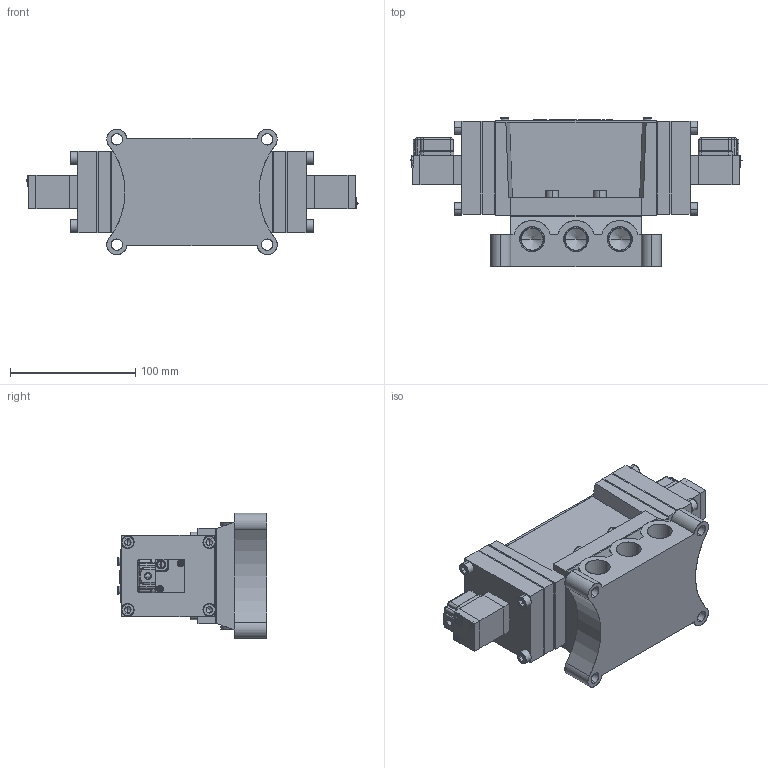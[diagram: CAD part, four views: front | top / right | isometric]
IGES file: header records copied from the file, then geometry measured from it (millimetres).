
Start section: SolidWorks IGES file using analytic representation for surfaces
Global section: file name: D:\Custom\3D繪製\PM\PM15\PMD3415#-04-#G#.IGS,1; native system: 5HSolidWorks 2014; preprocessor: SolidWorks 2014; author: Chieh_Lu; date: 151215.222144; units: millimetre
Bounding box: 264.95 x 119.55 x 100 mm (x, y, z)
Surface area: 254196.4 mm2 (no closed solid volume)
Topology: 0 solids, 0 shells, 1123 faces, 11929 edges, 11877 vertices
Faces by surface type: bspline 709, revolution 414
